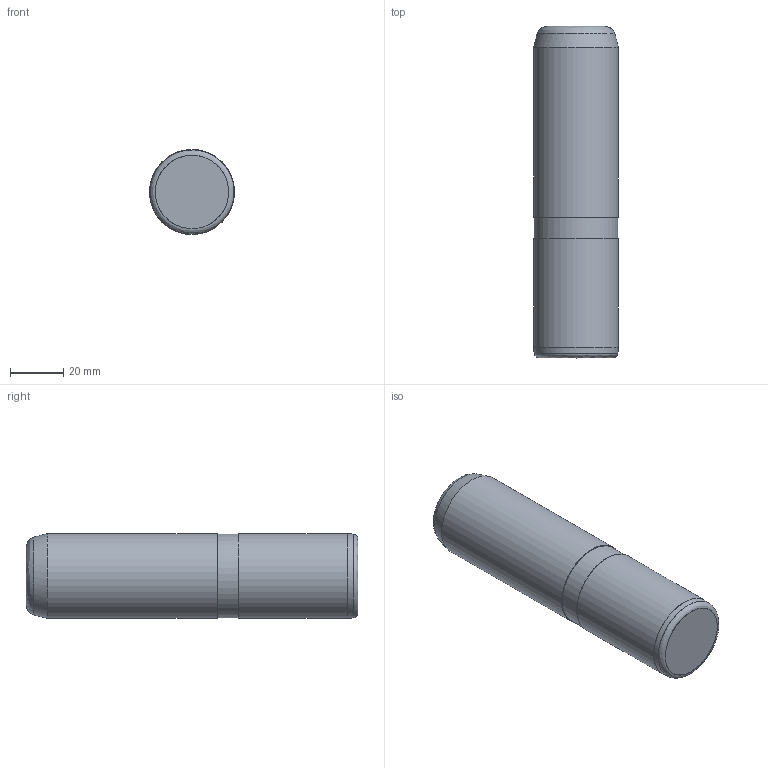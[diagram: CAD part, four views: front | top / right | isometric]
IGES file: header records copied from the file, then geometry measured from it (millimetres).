
Start section: Missler Software BP 521, 31674 Labege Cedex, France Tel   : +33 (0)5 61 00 03 00 Fax   : +33 (0)5 61 00 03 03 Email : sup.topsolid@topsolid.com
Global section: file name: D:\Cuma\26 04 2010\D15g\D15_32125.igs; native system: TopSolid v605250 Missler Software; preprocessor: IGES preprocessor v100000; date: 030225.172216; units: millimetre
Bounding box: 32 x 125 x 32 mm (x, y, z)
Surface area: 13816.9 mm2 (no closed solid volume)
Topology: 0 solids, 0 shells, 11 faces, 216 edges, 210 vertices
Faces by surface type: bspline 11
